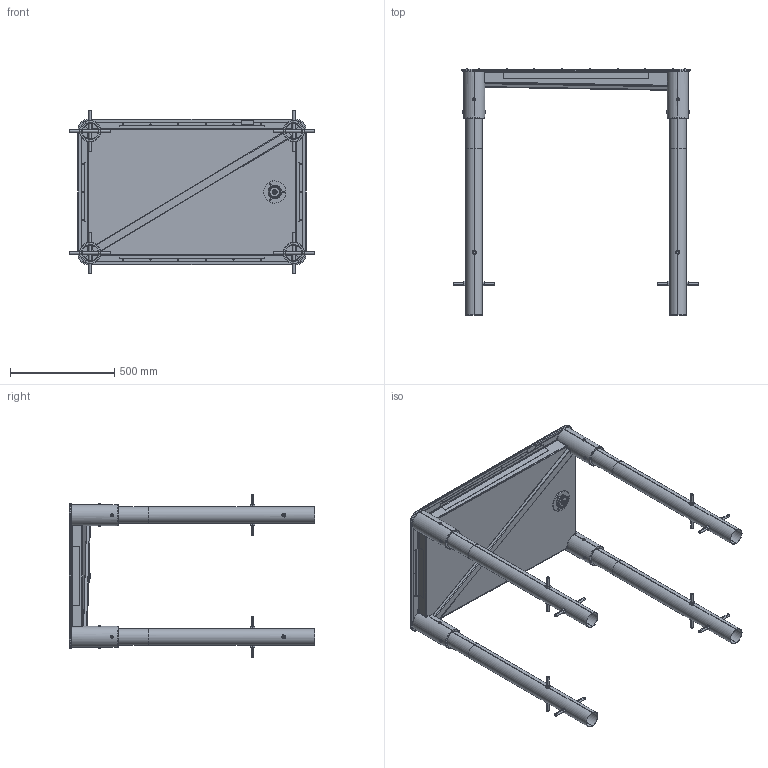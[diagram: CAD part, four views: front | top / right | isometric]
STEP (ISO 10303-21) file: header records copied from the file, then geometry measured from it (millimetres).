
FILE_DESCRIPTION (( 'STEP AP214' ), '1' );
FILE_NAME ('570.202.020.012 - Mud pool 38cm CA.STEP', '2021-03-25T08:21:42', ( '' ), ( '' ), 'SwSTEP 2.0', 'SolidWorks 2018', '' );
FILE_SCHEMA (( 'AUTOMOTIVE_DESIGN' ));
Length unit declared in the file: millimetre
Products named in the file (1): 570.202.020.012 - Mud pool 38cm CA
Bounding box: 1178 x 1181.1 x 785 mm (x, y, z)
Surface area: 4885209.5 mm2 (no closed solid volume)
Topology: 0 solids, 152 shells, 788 faces, 2774 edges, 1971 vertices
Faces by surface type: plane 310, cylinder 219, cone 86, bspline 69, torus 68, sphere 36
Entity records: 47636 total; most frequent: CARTESIAN_POINT 16632, DIRECTION 4659, ORIENTED_EDGE 3940, EDGE_CURVE 2770, VERTEX_POINT 1971, AXIS2_PLACEMENT_3D 1860, CIRCLE 1140, VECTOR 939
